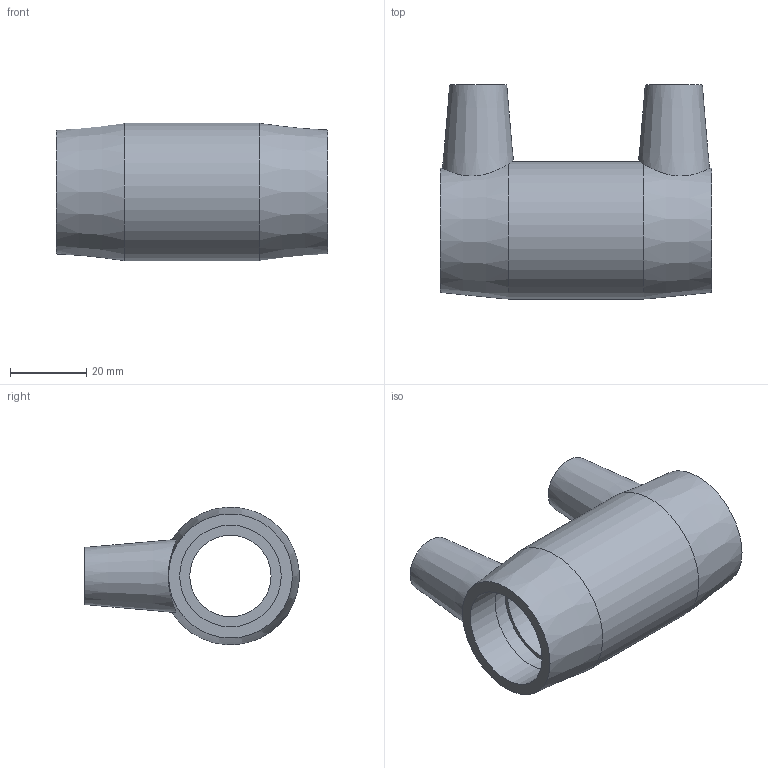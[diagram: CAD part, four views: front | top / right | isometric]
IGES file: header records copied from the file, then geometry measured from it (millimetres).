
Global section: file name: 5901U004007.ipt; native system: Autodesk Inventor 2019; preprocessor: unknown; author: KIM; date: 20210830.100934; units: inch
Bounding box: 71.12 x 56.07 x 35.97 mm (x, y, z)
Volume: 37416.3 mm3; surface area: 18287.1 mm2
Topology: 1 solids, 1 shells, 30 faces, 66 edges, 46 vertices
Faces by surface type: plane 12, revolution 11, cone 4, cylinder 3
Full cylindrical faces by diameter (mm): 4 x2, 36.068 x1
